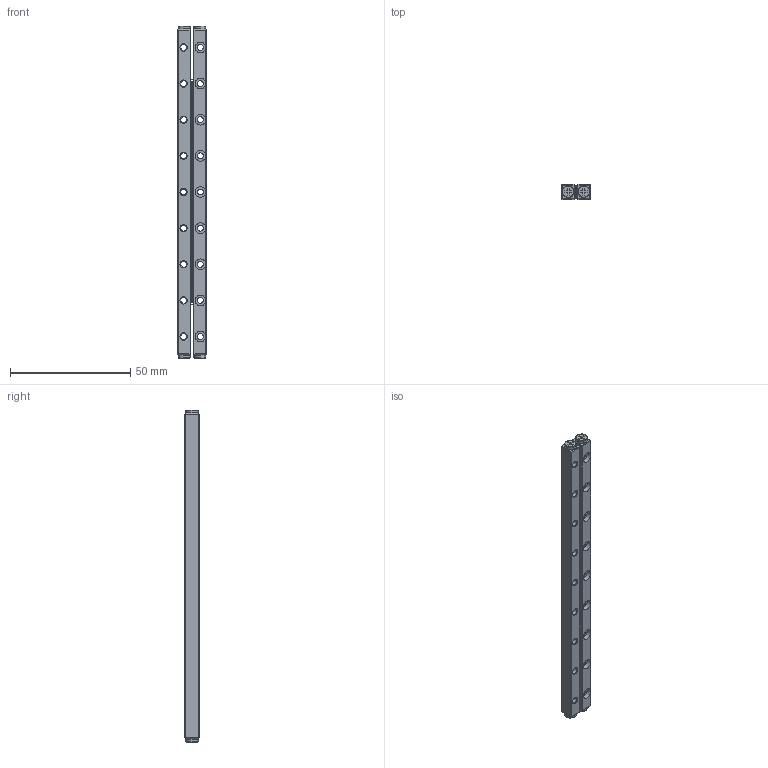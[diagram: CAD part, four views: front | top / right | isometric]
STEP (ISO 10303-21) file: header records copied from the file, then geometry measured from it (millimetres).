
FILE_DESCRIPTION(/* description */ ('Unknown'),/* implementation_level */ '2;1');
FILE_NAME(/* name */ 'VR2-135x23Z',/* time_stamp */ '2025-06-12T09:12:35+08:00',/* author */ ('Unknown'),/* organization */ ('Unknown'),/* preprocessor_version */ 'ST-DEVELOPER v18.102',/* originating_system */ 'Solid Edge',/* authorisation */ 'Unknown');
FILE_SCHEMA (('AUTOMOTIVE_DESIGN {1 0 10303 214 3 1 1}'));
Length unit declared in the file: millimetre
Products named in the file (3): VR2-135x23Z; VR2-135x23Z_rail; VR2-135x23Z_roller
Assembly tree (3 placements, depth 2):
  VR2-135x23Z
    VR2-135x23Z_rail  x2
    VR2-135x23Z_roller
Bounding box: 12 x 6 x 137.8 mm (x, y, z)
Volume: 8029.7 mm3; surface area: 8759.1 mm2
Topology: 3 solids, 3 shells, 509 faces, 1496 edges, 974 vertices
Faces by surface type: plane 324, cylinder 159, cone 18, torus 8
Full cylindrical faces by diameter (mm): 2 x23, 2.459 x18, 4.4 x18, 5 x4
Entity records: 14129 total; most frequent: DIRECTION 2323, CARTESIAN_POINT 2298, ORIENTED_EDGE 2232, EDGE_CURVE 1116, AXIS2_PLACEMENT_3D 794, VERTEX_POINT 769, LINE 735, VECTOR 735
